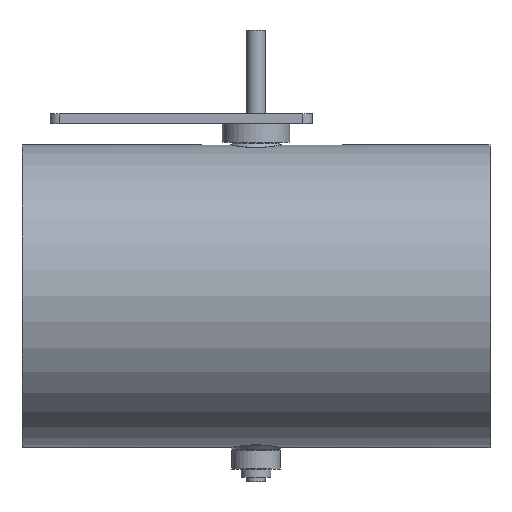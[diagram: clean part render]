
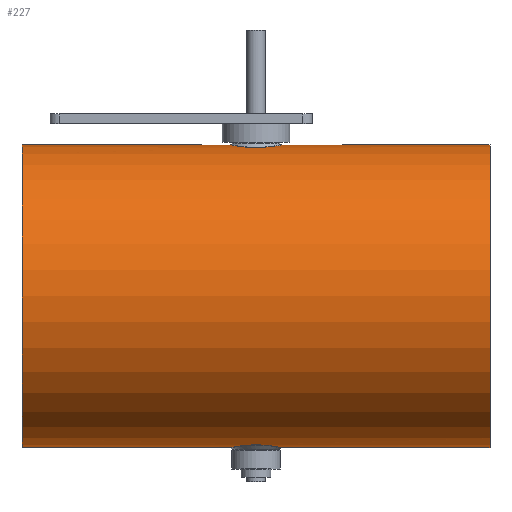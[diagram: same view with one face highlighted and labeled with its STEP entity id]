
A CAD part, top view. The second image highlights one B-rep face of the part: STEP entity #227.
In plain terms, the highlighted cylindrical face has radius 80.8 mm (diameter 161.6 mm), a full revolution.
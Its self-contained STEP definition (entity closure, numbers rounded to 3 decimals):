
#169=B_SPLINE_CURVE_WITH_KNOTS('',3,(#1393,#1394,#1395,#1396,#1397,#1398,
#1399,#1400,#1401,#1402,#1403,#1404,#1405,#1406,#1407,#1408,#1409,#1410,
#1411,#1412,#1413,#1414),.UNSPECIFIED.,.T.,.F.,(2,2,2,2,2,2,2,2,2,2,2,2,
2),(-0.062,0.,0.125,0.25,0.375,0.438,
0.5,0.625,0.75,0.875,0.938,1.,1.125),
 .UNSPECIFIED.);
#170=B_SPLINE_CURVE_WITH_KNOTS('',3,(#1416,#1417,#1418,#1419,#1420,#1421,
#1422,#1423,#1424,#1425,#1426,#1427,#1428,#1429,#1430,#1431,#1432,#1433,
#1434,#1435,#1436,#1437),.UNSPECIFIED.,.T.,.F.,(2,2,2,2,2,2,2,2,2,2,2,2,
2),(-0.125,0.,0.062,0.125,0.25,0.375,0.5,0.563,
0.625,0.75,0.875,1.,1.063),.UNSPECIFIED.);
#196=CYLINDRICAL_SURFACE('',#990,80.8);
#227=ADVANCED_FACE('',(#329,#330,#331,#332),#196,.T.);
#329=FACE_BOUND('',#443,.T.);
#330=FACE_BOUND('',#444,.T.);
#331=FACE_BOUND('',#445,.T.);
#332=FACE_BOUND('',#446,.T.);
#443=EDGE_LOOP('',(#571));
#444=EDGE_LOOP('',(#572));
#445=EDGE_LOOP('',(#573));
#446=EDGE_LOOP('',(#574));
#571=ORIENTED_EDGE('',*,*,#829,.T.);
#572=ORIENTED_EDGE('',*,*,#830,.T.);
#573=ORIENTED_EDGE('',*,*,#825,.T.);
#574=ORIENTED_EDGE('',*,*,#827,.T.);
#745=VERTEX_POINT('',#1384);
#747=VERTEX_POINT('',#1389);
#749=VERTEX_POINT('',#1415);
#750=VERTEX_POINT('',#1438);
#825=EDGE_CURVE('',#745,#745,#917,.T.);
#827=EDGE_CURVE('',#747,#747,#919,.T.);
#829=EDGE_CURVE('',#749,#749,#169,.T.);
#830=EDGE_CURVE('',#750,#750,#170,.T.);
#917=CIRCLE('',#984,80.8);
#919=CIRCLE('',#987,80.8);
#984=AXIS2_PLACEMENT_3D('',#1383,#1120,#1121);
#987=AXIS2_PLACEMENT_3D('',#1388,#1126,#1127);
#990=AXIS2_PLACEMENT_3D('',#1439,#1132,#1133);
#1120=DIRECTION('',(-1.,0.,0.));
#1121=DIRECTION('',(0.,0.,1.));
#1126=DIRECTION('',(1.,0.,0.));
#1127=DIRECTION('',(0.,0.,-1.));
#1132=DIRECTION('',(1.,0.,0.));
#1133=DIRECTION('',(0.,0.,-1.));
#1383=CARTESIAN_POINT('',(125.,-38.3,125.));
#1384=CARTESIAN_POINT('',(125.,-38.3,205.8));
#1388=CARTESIAN_POINT('',(-125.,-38.3,125.));
#1389=CARTESIAN_POINT('',(-125.,-38.3,44.2));
#1393=CARTESIAN_POINT('',(-2.062,-117.599,109.488));
#1394=CARTESIAN_POINT('',(-7.671,-117.937,111.287));
#1395=CARTESIAN_POINT('',(-10.71,-118.443,114.144));
#1396=CARTESIAN_POINT('',(-14.158,-119.079,121.063));
#1397=CARTESIAN_POINT('',(-14.603,-119.187,125.197));
#1398=CARTESIAN_POINT('',(-12.776,-118.819,132.714));
#1399=CARTESIAN_POINT('',(-10.485,-118.352,136.179));
#1400=CARTESIAN_POINT('',(-5.655,-117.819,139.371));
#1401=CARTESIAN_POINT('',(-3.811,-117.676,140.104));
#1402=CARTESIAN_POINT('',(0.052,-117.565,140.679));
#1403=CARTESIAN_POINT('',(2.042,-117.599,140.514));
#1404=CARTESIAN_POINT('',(7.634,-117.934,138.733));
#1405=CARTESIAN_POINT('',(10.688,-118.439,135.895));
#1406=CARTESIAN_POINT('',(14.17,-119.081,128.919));
#1407=CARTESIAN_POINT('',(14.607,-119.188,124.81));
#1408=CARTESIAN_POINT('',(12.77,-118.818,117.267));
#1409=CARTESIAN_POINT('',(10.468,-118.349,113.802));
#1410=CARTESIAN_POINT('',(5.638,-117.818,110.621));
#1411=CARTESIAN_POINT('',(3.774,-117.675,109.887));
#1412=CARTESIAN_POINT('',(-0.058,-117.565,109.324));
#1413=CARTESIAN_POINT('',(-2.062,-117.599,109.488));
#1414=CARTESIAN_POINT('',(-7.671,-117.937,111.287));
#1415=CARTESIAN_POINT('',(-3.932,-117.712,110.088));
#1416=CARTESIAN_POINT('',(-7.672,41.337,111.288));
#1417=CARTESIAN_POINT('',(-2.062,40.999,109.488));
#1418=CARTESIAN_POINT('',(-0.076,40.965,109.323));
#1419=CARTESIAN_POINT('',(3.765,41.074,109.884));
#1420=CARTESIAN_POINT('',(5.623,41.216,110.612));
#1421=CARTESIAN_POINT('',(10.487,41.751,113.813));
#1422=CARTESIAN_POINT('',(12.778,42.219,117.279));
#1423=CARTESIAN_POINT('',(14.609,42.588,124.842));
#1424=CARTESIAN_POINT('',(14.155,42.478,128.954));
#1425=CARTESIAN_POINT('',(10.699,41.841,135.869));
#1426=CARTESIAN_POINT('',(7.658,41.337,138.712));
#1427=CARTESIAN_POINT('',(2.088,41.001,140.505));
#1428=CARTESIAN_POINT('',(0.12,40.964,140.68));
#1429=CARTESIAN_POINT('',(-3.773,41.074,140.118));
#1430=CARTESIAN_POINT('',(-5.62,41.216,139.389));
#1431=CARTESIAN_POINT('',(-10.475,41.749,136.197));
#1432=CARTESIAN_POINT('',(-12.769,42.218,132.74));
#1433=CARTESIAN_POINT('',(-14.61,42.589,125.171));
#1434=CARTESIAN_POINT('',(-14.173,42.481,121.088));
#1435=CARTESIAN_POINT('',(-10.689,41.839,114.106));
#1436=CARTESIAN_POINT('',(-7.672,41.337,111.288));
#1437=CARTESIAN_POINT('',(-2.062,40.999,109.488));
#1438=CARTESIAN_POINT('',(-3.932,41.112,110.088));
#1439=CARTESIAN_POINT('',(-125.,-38.3,125.));
